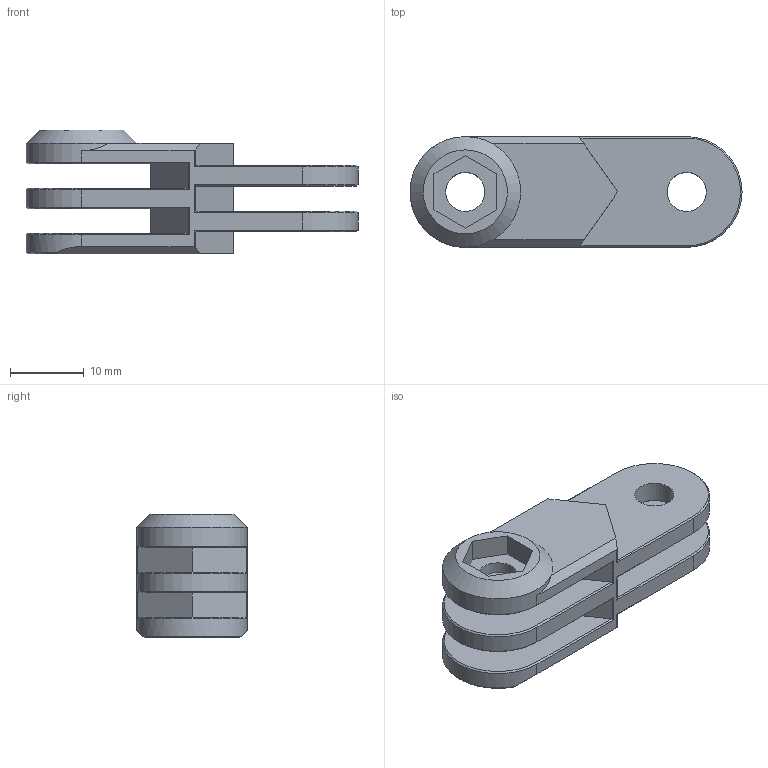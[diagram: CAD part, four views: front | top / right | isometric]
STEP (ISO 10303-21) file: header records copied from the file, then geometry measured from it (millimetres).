
FILE_DESCRIPTION(/* description */ ('STEP AP214'),/* implementation_level */ '2;1');
FILE_NAME(/* name */ '60a1423925d25912eeacacb0',/* time_stamp */ '2021-05-16T16:03:06+00:00',/* author */ (''),/* organization */ (''),/* preprocessor_version */ 'ST-DEVELOPER v18.1',/* originating_system */ ' ',/* authorisation */ ' ');
FILE_SCHEMA (('AUTOMOTIVE_DESIGN {1 0 10303 214 3 1 1}'));
Length unit declared in the file: metre
Products named in the file (1): Arm Straight
Bounding box: 45 x 15 x 16.8 mm (x, y, z)
Volume: 4850.8 mm3; surface area: 3938.7 mm2
Topology: 1 solids, 1 shells, 80 faces, 218 edges, 141 vertices
Faces by surface type: plane 60, cylinder 10, cone 10
Full cylindrical faces by diameter (mm): 5.3 x5
Entity records: 2461 total; most frequent: CARTESIAN_POINT 428, ORIENTED_EDGE 412, DIRECTION 401, EDGE_CURVE 206, LINE 169, VECTOR 169, VERTEX_POINT 135, AXIS2_PLACEMENT_3D 116
